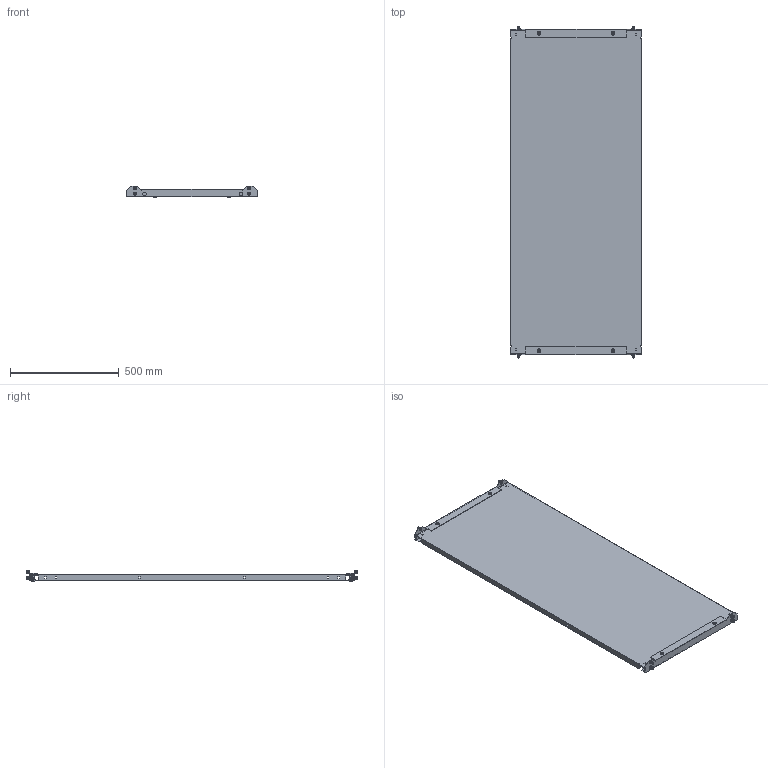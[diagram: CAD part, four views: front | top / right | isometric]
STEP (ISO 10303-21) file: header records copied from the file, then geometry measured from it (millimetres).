
FILE_DESCRIPTION(('Open CASCADE Model'),'2;1');
FILE_NAME('Open CASCADE Shape Model','2025-02-13T16:49:43',('Author'),( 'Open CASCADE'),'Open CASCADE STEP processor 7.8','Open CASCADE 7.8' ,'Unknown');
FILE_SCHEMA(('AUTOMOTIVE_DESIGN { 1 0 10303 214 1 1 1 1 }'));
Length unit declared in the file: millimetre
Products named in the file (11): Compound1; Solid1; Compound2; Solid2; Solid3; Solid4; Solid5; Solid6; Solid7; Solid8; Solid9
Assembly tree (38 placements, depth 3):
  Compound1
    Solid1
    Compound2  x2
      Solid2
      Solid3
    Solid4  x4
    Solid5  x4
    Solid6  x4
    Solid7  x4
    Solid8  x8
    Solid9  x8
Bounding box: 600 x 1526 x 54.5 mm (x, y, z)
Volume: 2895466.8 mm3; surface area: 2344360.7 mm2
Topology: 39 solids, 39 shells, 2600 faces, 7022 edges, 4436 vertices
Faces by surface type: plane 1298, cylinder 702, bspline 304, cone 164, torus 128, sphere 4
Full cylindrical faces by diameter (mm): 5 x12, 6 x16, 6.5 x8, 6.8 x4, 8 x4, 8.3 x8, 8.4 x4, 9.5 x8, 10.1 x4, 10.44 x4, 10.5 x4, 11.57 x8, 12 x4, 12.65 x4, 16 x12, 16.55 x4
Entity records: 22514 total; most frequent: CARTESIAN_POINT 6003, ORIENTED_EDGE 3512, DIRECTION 3182, EDGE_CURVE 1756, LINE 1150, VECTOR 1150, VERTEX_POINT 1131, AXIS2_PLACEMENT_3D 1016
